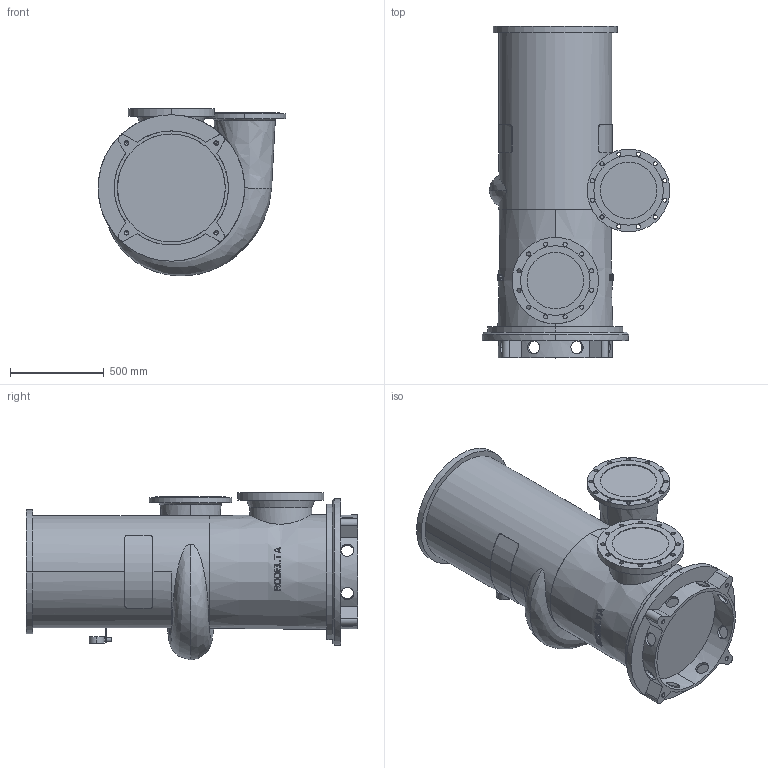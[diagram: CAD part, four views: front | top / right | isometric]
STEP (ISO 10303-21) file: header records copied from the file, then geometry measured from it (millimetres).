
FILE_DESCRIPTION((''),'2;1');
FILE_NAME('12-520_ASM','2024-08-06T',('Lyritlocal'),(''),'PRO/ENGINEER BY PARAMETRIC TECHNOLOGY CORPORATION, 2016360','PRO/ENGINEER BY PARAMETRIC TECHNOLOGY CORPORATION, 2016360','');
FILE_SCHEMA(('CONFIG_CONTROL_DESIGN'));
Length unit declared in the file: millimetre
Products named in the file (3): 12-520; 12-520_VOET; 12-520_ASM
Assembly tree (2 placements, depth 2):
  12-520_ASM
    12-520
    12-520_VOET
Bounding box: 1000 x 1766.5 x 893.22 mm (x, y, z)
Volume: 566586530 mm3; surface area: 6652634.1 mm2
Topology: 2 solids, 6 shells, 503 faces, 1366 edges, 900 vertices
Faces by surface type: plane 323, cylinder 138, cone 36, bspline 6
Entity records: 17785 total; most frequent: CARTESIAN_POINT 5428, ORIENTED_EDGE 2700, DIRECTION 2313, EDGE_CURVE 1358, VERTEX_POINT 900, AXIS2_PLACEMENT_3D 896, EDGE_LOOP 608, VECTOR 521
